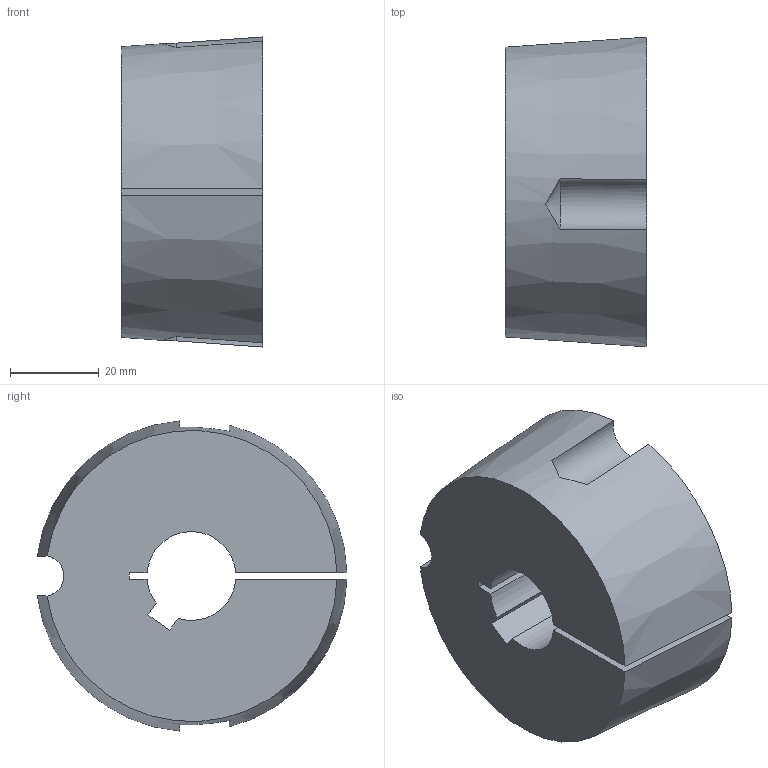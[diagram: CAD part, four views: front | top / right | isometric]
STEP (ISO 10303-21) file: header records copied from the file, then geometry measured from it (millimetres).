
FILE_DESCRIPTION( ( 'STEP AP203' ), '1' );
FILE_NAME( 'D:/export/antriebselemente/spannbuchsen_und_spannsaetze/taper-spannbuchsen_1008_bis_5050/taper-spannbuchsen_62250520Isometric_115.stp', '2018-12-11T11:11:12', ( '' ), ( '' ), ' ', 'PARTsolutions', ' ' );
FILE_SCHEMA( ( 'CONFIG_CONTROL_DESIGN' ) );
Length unit declared in the file: millimetre
Products named in the file (1): _taper-spannbuchsen_62250520
Bounding box: 31.8 x 69.72 x 69.81 mm (x, y, z)
Volume: 99291.5 mm3; surface area: 17483.7 mm2
Topology: 1 solids, 1 shells, 20 faces, 54 edges, 36 vertices
Faces by surface type: plane 10, cylinder 6, cone 4
Entity records: 752 total; most frequent: CARTESIAN_POINT 203, ORIENTED_EDGE 108, DIRECTION 104, EDGE_CURVE 54, AXIS2_PLACEMENT_3D 39, VERTEX_POINT 36, LINE 26, VECTOR 26
